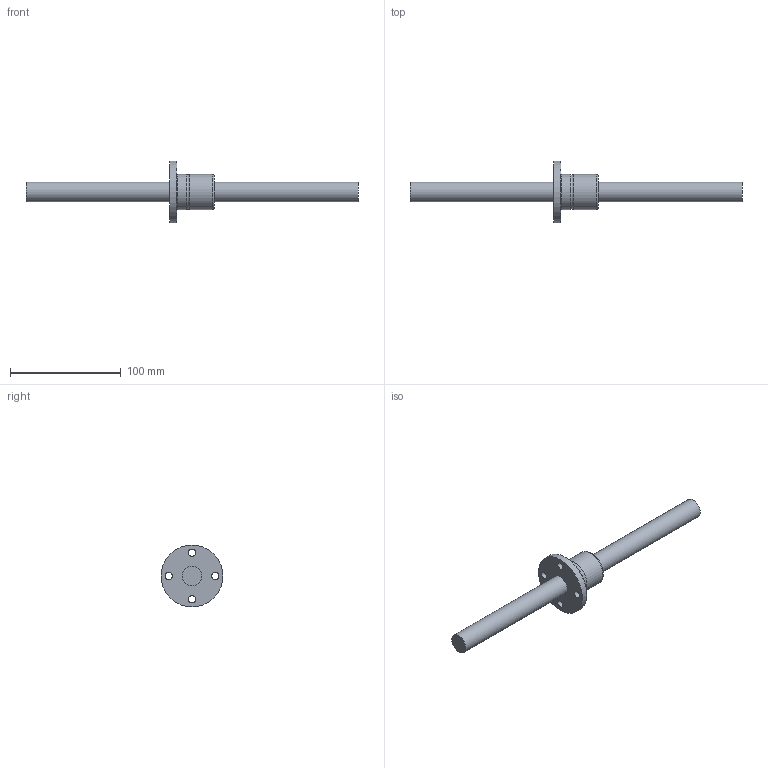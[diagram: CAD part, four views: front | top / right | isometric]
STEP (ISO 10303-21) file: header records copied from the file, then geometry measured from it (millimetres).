
FILE_DESCRIPTION((''),'2;1');
FILE_NAME('D:\製品 (図面)\カタログ用3D\ネジ関連\STEP形式\TMF-OH\TMF18-OH.stp','2010-06-02T15:13:41',('Tsuchiya'),(''),'Autodesk Inventor 10','Autodesk Inventor 10','');
FILE_SCHEMA(('AUTOMOTIVE_DESIGN { 1 0 10303 214 1 1 1 1 }'));
Length unit declared in the file: millimetre
Products named in the file (3): TMF18-OH; TMF18-OH1; TMF18-OH2
Assembly tree (2 placements, depth 2):
  TMF18-OH
    TMF18-OH1
    TMF18-OH2
Bounding box: 300 x 56 x 56 mm (x, y, z)
Volume: 107298.6 mm3; surface area: 28813.2 mm2
Topology: 2 solids, 2 shells, 18 faces, 40 edges, 27 vertices
Faces by surface type: cylinder 10, plane 5, bspline 2, torus 1
Full cylindrical faces by diameter (mm): 2 x1, 6.6 x4, 18 x2, 32 x2, 56 x1
Entity records: 711 total; most frequent: CARTESIAN_POINT 288, DIRECTION 82, ORIENTED_EDGE 44, EDGE_LOOP 44, AXIS2_PLACEMENT_3D 41, FACE_BOUND 26, VERTEX_POINT 22, EDGE_CURVE 22
